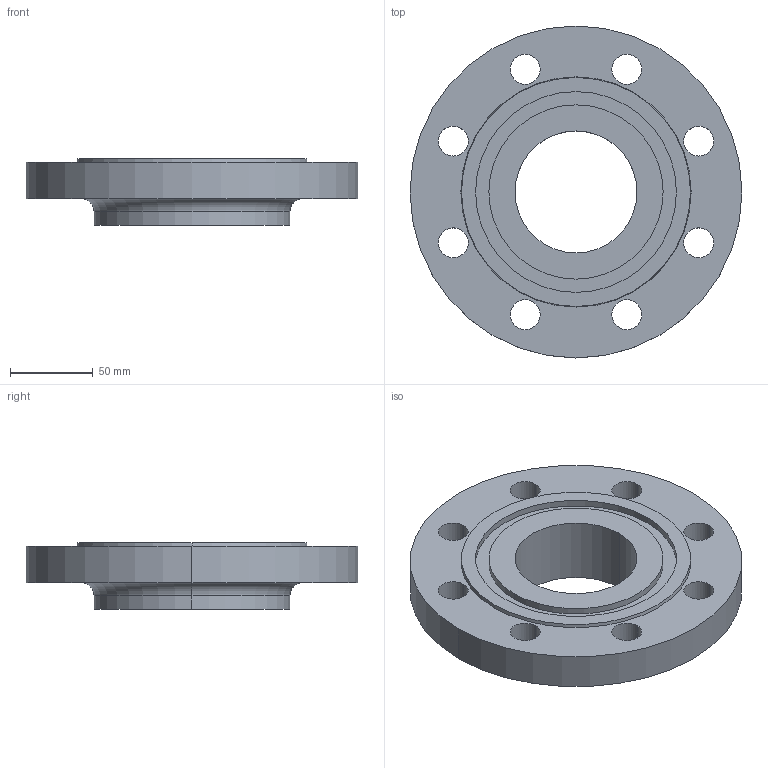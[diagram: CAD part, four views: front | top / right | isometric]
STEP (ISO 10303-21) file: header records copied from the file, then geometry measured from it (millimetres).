
FILE_DESCRIPTION (( 'STEP AP214' ), '1' );
FILE_NAME ('PN40 DN80 Type 13 - Type D Face.STEP', '2019-01-01T19:38:01', ( '' ), ( '' ), 'SwSTEP 2.0', 'SolidWorks 2019', '' );
FILE_SCHEMA (( 'AUTOMOTIVE_DESIGN' ));
Length unit declared in the file: millimetre
Products named in the file (1): PN40 DN80 Type 13 - Type D Face
Bounding box: 200 x 200 x 40 mm (x, y, z)
Volume: 675551.3 mm3; surface area: 91542.2 mm2
Topology: 1 solids, 1 shells, 36 faces, 88 edges, 58 vertices
Faces by surface type: cylinder 26, plane 6, torus 2, cone 2
Entity records: 1166 total; most frequent: DIRECTION 222, CARTESIAN_POINT 183, ORIENTED_EDGE 176, AXIS2_PLACEMENT_3D 97, EDGE_CURVE 88, CIRCLE 60, EDGE_LOOP 58, VERTEX_POINT 58
